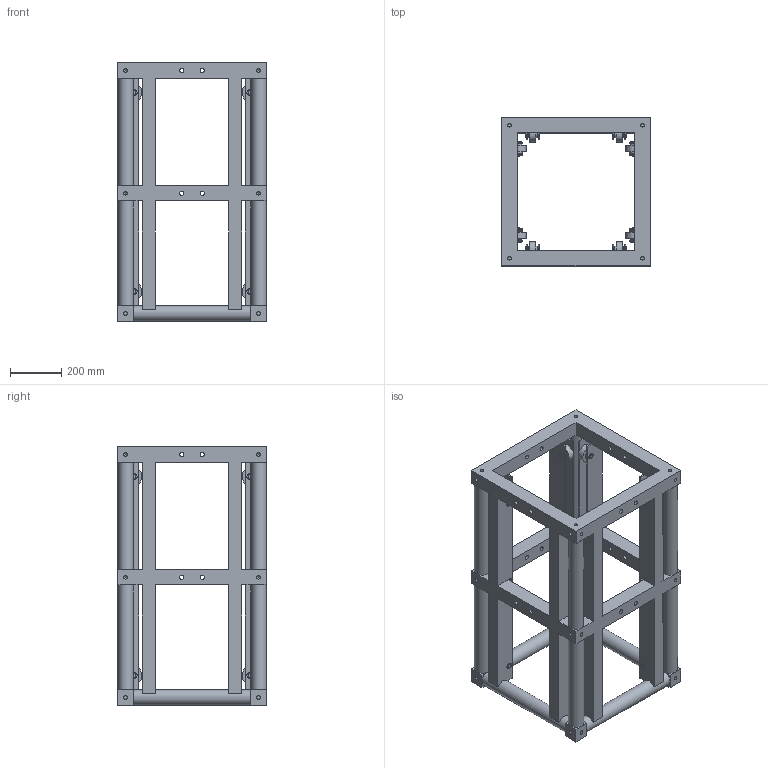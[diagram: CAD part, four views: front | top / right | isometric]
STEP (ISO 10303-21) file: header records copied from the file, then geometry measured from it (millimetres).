
FILE_DESCRIPTION(/* description */ (''),/* implementation_level */ '2;1');
FILE_NAME(/* name */ 'M:\Symbolen_NIEUW\STP\Sleeveblocks\111820016.stp',/* time_stamp */ '2015-06-01T15:42:58+02:00',/* author */ ('Stephan'),/* organization */ (''),/* preprocessor_version */ 'ST-DEVELOPER v15.6',/* originating_system */ 'Autodesk Inventor 2015',/* authorisation */ '');
FILE_SCHEMA (('AUTOMOTIVE_DESIGN { 1 0 10303 214 3 1 1 }'));
Length unit declared in the file: millimetre
Products named in the file (1): 160024348
Bounding box: 580 x 580 x 1010 mm (x, y, z)
Volume: 36722004 mm3; surface area: 5182007.5 mm2
Topology: 1 solids, 1 shells, 889 faces, 2104 edges, 1352 vertices
Faces by surface type: plane 549, cylinder 324, cone 16
Full cylindrical faces by diameter (mm): 13.835 x72, 16 x96, 17 x16, 20.75 x16, 23.691 x32, 30 x32, 34.5 x32, 60 x12, 65 x16
Entity records: 23910 total; most frequent: DIRECTION 4176, CARTESIAN_POINT 3674, ORIENTED_EDGE 3192, AXIS2_PLACEMENT_3D 1690, EDGE_CURVE 1596, EDGE_LOOP 1538, VERTEX_POINT 1188, STYLED_ITEM 890
